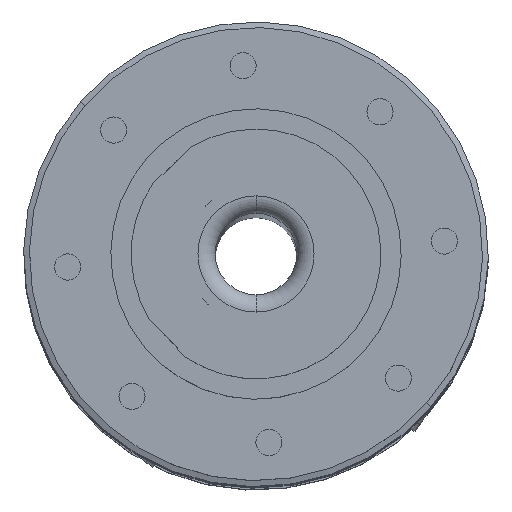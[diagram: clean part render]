
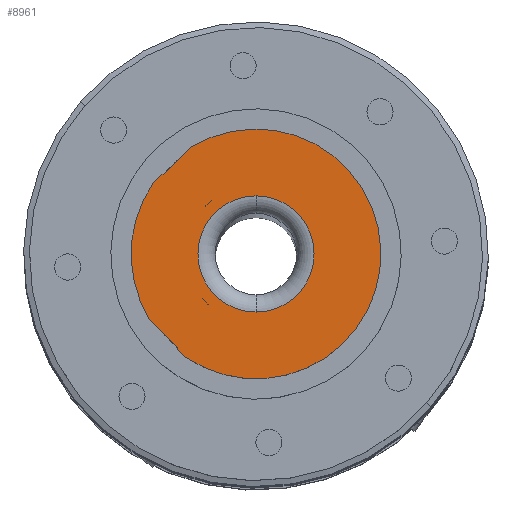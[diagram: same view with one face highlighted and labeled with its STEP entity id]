
A CAD part, top view. The second image highlights one B-rep face of the part: STEP entity #8961.
In plain terms, the highlighted planar face has unit normal (0, 0, 1).
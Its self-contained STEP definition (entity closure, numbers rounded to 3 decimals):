
#156 = DIRECTION ( 'NONE',  ( 0., 0., -1. ) ) ;
#163 = CARTESIAN_POINT ( 'NONE',  ( 637.9, -17.772, 610.8 ) ) ;
#307 = DIRECTION ( 'NONE',  ( 0., 0., -1. ) ) ;
#352 = DIRECTION ( 'NONE',  ( 0.727, 0.687, 0. ) ) ;
#402 = CARTESIAN_POINT ( 'NONE',  ( 638.93, 18.431, 610.8 ) ) ;
#557 = EDGE_CURVE ( 'NONE', #3120, #8485, #2669, .T. ) ;
#605 = CARTESIAN_POINT ( 'NONE',  ( 631.569, -11.07, 610.8 ) ) ;
#758 = VERTEX_POINT ( 'NONE', #3901 ) ;
#1124 = EDGE_CURVE ( 'NONE', #2367, #6932, #3819, .T. ) ;
#1305 = DIRECTION ( 'NONE',  ( 0.687, -0.727, 0. ) ) ;
#1411 = FACE_OUTER_BOUND ( 'NONE', #2755, .T. ) ;
#1582 = CARTESIAN_POINT ( 'NONE',  ( 650., -10., 610.8 ) ) ;
#1748 = CARTESIAN_POINT ( 'NONE',  ( 650., 10., 610.8 ) ) ;
#1829 = DIRECTION ( 'NONE',  ( -0.687, 0.727, 0. ) ) ;
#2098 = FACE_BOUND ( 'NONE', #7822, .T. ) ;
#2346 = DIRECTION ( 'NONE',  ( 0., 0., -1. ) ) ;
#2367 = VERTEX_POINT ( 'NONE', #1748 ) ;
#2378 = DIRECTION ( 'NONE',  ( 0., 0., -1. ) ) ;
#2416 = DIRECTION ( 'NONE',  ( 0.687, -0.727, 0. ) ) ;
#2511 = AXIS2_PLACEMENT_3D ( 'NONE', #4213, #307, #2416 ) ;
#2669 = LINE ( 'NONE', #605, #7214 ) ;
#2755 = EDGE_LOOP ( 'NONE', ( #3147, #4928, #3030, #7965, #4269 ) ) ;
#2793 = CARTESIAN_POINT ( 'NONE',  ( 638., 0., 610.8 ) ) ;
#3030 = ORIENTED_EDGE ( 'NONE', *, *, #6306, .F. ) ;
#3120 = VERTEX_POINT ( 'NONE', #163 ) ;
#3147 = ORIENTED_EDGE ( 'NONE', *, *, #3425, .F. ) ;
#3235 = CIRCLE ( 'NONE', #5998, 21.5 ) ;
#3277 = DIRECTION ( 'NONE',  ( 0., 0., -1. ) ) ;
#3425 = EDGE_CURVE ( 'NONE', #8485, #7953, #5493, .T. ) ;
#3484 = PLANE ( 'NONE',  #8672 ) ;
#3566 = CIRCLE ( 'NONE', #8626, 10. ) ;
#3595 = CARTESIAN_POINT ( 'NONE',  ( 650., 0., 610.8 ) ) ;
#3819 = CIRCLE ( 'NONE', #4966, 10. ) ;
#3851 = DIRECTION ( 'NONE',  ( 0.687, -0.727, 0. ) ) ;
#3901 = CARTESIAN_POINT ( 'NONE',  ( 638.93, 18.431, 610.8 ) ) ;
#3959 = CARTESIAN_POINT ( 'NONE',  ( 631.569, -11.07, 610.8 ) ) ;
#4213 = CARTESIAN_POINT ( 'NONE',  ( 650., 0., 610.8 ) ) ;
#4268 = CARTESIAN_POINT ( 'NONE',  ( 650., 0., 610.8 ) ) ;
#4269 = ORIENTED_EDGE ( 'NONE', *, *, #8092, .F. ) ;
#4641 = ORIENTED_EDGE ( 'NONE', *, *, #7377, .T. ) ;
#4847 = DIRECTION ( 'NONE',  ( -1., 0., 0. ) ) ;
#4885 = DIRECTION ( 'NONE',  ( 0., 0., -1. ) ) ;
#4901 = AXIS2_PLACEMENT_3D ( 'NONE', #8223, #3277, #1305 ) ;
#4928 = ORIENTED_EDGE ( 'NONE', *, *, #557, .F. ) ;
#4966 = AXIS2_PLACEMENT_3D ( 'NONE', #4268, #156, #6231 ) ;
#5124 = CARTESIAN_POINT ( 'NONE',  ( 664.764, -15.629, 610.8 ) ) ;
#5427 = CIRCLE ( 'NONE', #2511, 21.5 ) ;
#5493 = CIRCLE ( 'NONE', #4901, 21.5 ) ;
#5998 = AXIS2_PLACEMENT_3D ( 'NONE', #8019, #2378, #3851 ) ;
#6231 = DIRECTION ( 'NONE',  ( 0., 1., 0. ) ) ;
#6306 = EDGE_CURVE ( 'NONE', #8795, #3120, #3235, .T. ) ;
#6357 = DIRECTION ( 'NONE',  ( 0., 1., 0. ) ) ;
#6484 = ORIENTED_EDGE ( 'NONE', *, *, #1124, .T. ) ;
#6630 = EDGE_CURVE ( 'NONE', #758, #8795, #5427, .T. ) ;
#6932 = VERTEX_POINT ( 'NONE', #1582 ) ;
#7214 = VECTOR ( 'NONE', #1829, 1000. ) ;
#7377 = EDGE_CURVE ( 'NONE', #6932, #2367, #3566, .T. ) ;
#7822 = EDGE_LOOP ( 'NONE', ( #6484, #4641 ) ) ;
#7953 = VERTEX_POINT ( 'NONE', #8913 ) ;
#7965 = ORIENTED_EDGE ( 'NONE', *, *, #6630, .F. ) ;
#8019 = CARTESIAN_POINT ( 'NONE',  ( 650., 0., 610.8 ) ) ;
#8092 = EDGE_CURVE ( 'NONE', #7953, #758, #8549, .T. ) ;
#8223 = CARTESIAN_POINT ( 'NONE',  ( 650., 0., 610.8 ) ) ;
#8485 = VERTEX_POINT ( 'NONE', #3959 ) ;
#8501 = VECTOR ( 'NONE', #352, 1000. ) ;
#8549 = LINE ( 'NONE', #402, #8501 ) ;
#8626 = AXIS2_PLACEMENT_3D ( 'NONE', #3595, #2346, #6357 ) ;
#8672 = AXIS2_PLACEMENT_3D ( 'NONE', #2793, #4885, #4847 ) ;
#8795 = VERTEX_POINT ( 'NONE', #5124 ) ;
#8913 = CARTESIAN_POINT ( 'NONE',  ( 632.228, 12.1, 610.8 ) ) ;
#8961 = ADVANCED_FACE ( 'NONE', ( #2098, #1411 ), #3484, .F. ) ;
